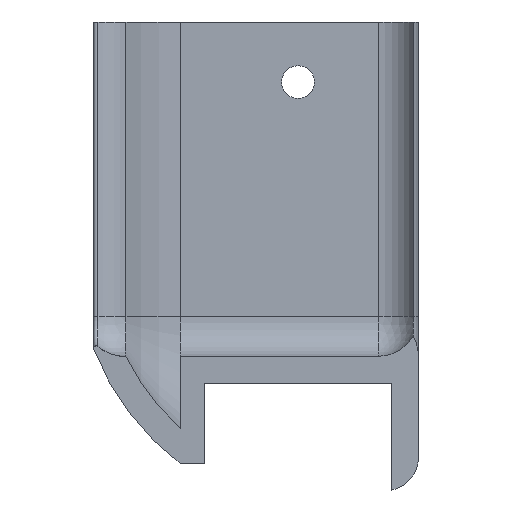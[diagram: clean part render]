
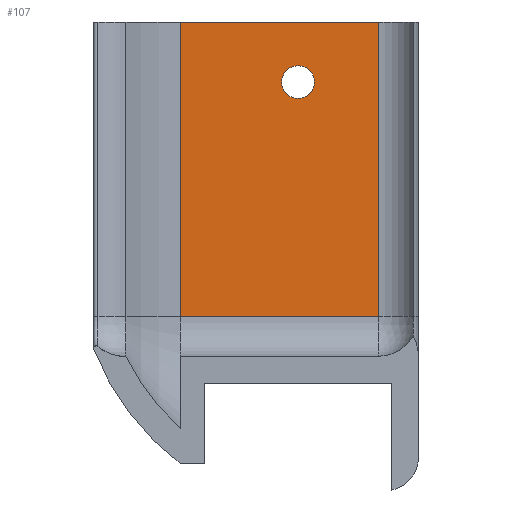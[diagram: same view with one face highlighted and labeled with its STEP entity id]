
A CAD part, front view. The second image highlights one B-rep face of the part: STEP entity #107.
In plain terms, the highlighted planar face has unit normal (0, -1, 0).
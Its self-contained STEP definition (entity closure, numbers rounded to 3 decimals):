
#8 = CARTESIAN_POINT ( 'NONE',  ( -9., 0., -5.725 ) ) ;
#21 = ORIENTED_EDGE ( 'NONE', *, *, #696, .T. ) ;
#27 = LINE ( 'NONE', #1121, #781 ) ;
#39 = CARTESIAN_POINT ( 'NONE',  ( -3., 0., -22. ) ) ;
#58 = CARTESIAN_POINT ( 'NONE',  ( -9., 0., -4.5 ) ) ;
#59 = VERTEX_POINT ( 'NONE', #504 ) ;
#84 = DIRECTION ( 'NONE',  ( 1., 0., 0. ) ) ;
#107 = ADVANCED_FACE ( 'NONE', ( #260, #327 ), #1141, .T. ) ;
#127 = CARTESIAN_POINT ( 'NONE',  ( -17.832, 0., -22. ) ) ;
#129 = CARTESIAN_POINT ( 'NONE',  ( -17.832, 0., -22. ) ) ;
#186 = VECTOR ( 'NONE', #84, 1000. ) ;
#260 = FACE_BOUND ( 'NONE', #958, .T. ) ;
#295 = VERTEX_POINT ( 'NONE', #8 ) ;
#312 = EDGE_CURVE ( 'NONE', #733, #402, #489, .T. ) ;
#327 = FACE_OUTER_BOUND ( 'NONE', #361, .T. ) ;
#348 = DIRECTION ( 'NONE',  ( 0., -1., 0. ) ) ;
#360 = DIRECTION ( 'NONE',  ( 0., 0., -1. ) ) ;
#361 = EDGE_LOOP ( 'NONE', ( #373, #610, #21, #423 ) ) ;
#363 = AXIS2_PLACEMENT_3D ( 'NONE', #1164, #348, #619 ) ;
#373 = ORIENTED_EDGE ( 'NONE', *, *, #1040, .F. ) ;
#385 = DIRECTION ( 'NONE',  ( 1., 0., 0. ) ) ;
#401 = DIRECTION ( 'NONE',  ( 0., 0., 1. ) ) ;
#402 = VERTEX_POINT ( 'NONE', #692 ) ;
#422 = CARTESIAN_POINT ( 'NONE',  ( -17.832, 0., 0. ) ) ;
#423 = ORIENTED_EDGE ( 'NONE', *, *, #761, .T. ) ;
#452 = AXIS2_PLACEMENT_3D ( 'NONE', #58, #1154, #360 ) ;
#489 = LINE ( 'NONE', #129, #583 ) ;
#504 = CARTESIAN_POINT ( 'NONE',  ( -3., 0., 0. ) ) ;
#512 = LINE ( 'NONE', #422, #186 ) ;
#564 = CARTESIAN_POINT ( 'NONE',  ( -3., 0., -22. ) ) ;
#583 = VECTOR ( 'NONE', #681, 1000. ) ;
#610 = ORIENTED_EDGE ( 'NONE', *, *, #312, .F. ) ;
#619 = DIRECTION ( 'NONE',  ( 0., 0., -1. ) ) ;
#634 = VECTOR ( 'NONE', #401, 1000. ) ;
#661 = LINE ( 'NONE', #39, #634 ) ;
#662 = CIRCLE ( 'NONE', #452, 1.225 ) ;
#681 = DIRECTION ( 'NONE',  ( 0., 0., 1. ) ) ;
#692 = CARTESIAN_POINT ( 'NONE',  ( -17.832, 0., 0. ) ) ;
#696 = EDGE_CURVE ( 'NONE', #733, #808, #27, .T. ) ;
#733 = VERTEX_POINT ( 'NONE', #127 ) ;
#743 = ORIENTED_EDGE ( 'NONE', *, *, #1006, .F. ) ;
#761 = EDGE_CURVE ( 'NONE', #808, #59, #661, .T. ) ;
#781 = VECTOR ( 'NONE', #385, 1000. ) ;
#808 = VERTEX_POINT ( 'NONE', #564 ) ;
#958 = EDGE_LOOP ( 'NONE', ( #743 ) ) ;
#1006 = EDGE_CURVE ( 'NONE', #295, #295, #662, .T. ) ;
#1040 = EDGE_CURVE ( 'NONE', #402, #59, #512, .T. ) ;
#1121 = CARTESIAN_POINT ( 'NONE',  ( -17.832, 0., -22. ) ) ;
#1141 = PLANE ( 'NONE',  #363 ) ;
#1154 = DIRECTION ( 'NONE',  ( 0., -1., 0. ) ) ;
#1164 = CARTESIAN_POINT ( 'NONE',  ( -17.832, 0., -22. ) ) ;
